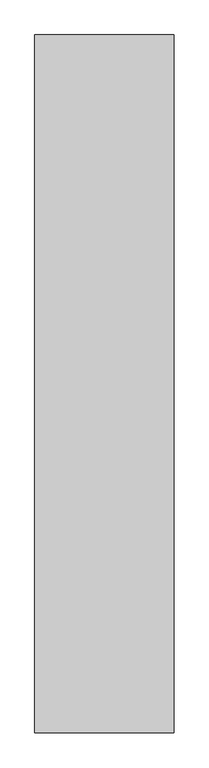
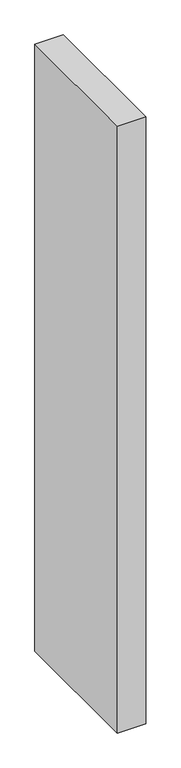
"""IFC4 building model written with IfcOpenShell, lengths in millimetres: column geometry, Бетон-Прямоугольного сечения-Колонна : 200 x 1000 мм."""

from ifc_helpers import new_model, si_unit, origin, origin_with_axes, place, context, project, spatial, polyline, outline, extrude, source, transform, mapped, element, save


def column_331ee7b7(model_context):
    return source(origin(), model_context, "Body", "SweptSolid", [
        extrude(outline(polyline([(100.0, 500.0), (100.0, -500.0), (-100.0, -500.0), (-100.0, 500.0), (100.0, 500.0)])), origin_with_axes(), (0.0, 0.0, 1.0), 4500.0),
    ])


if __name__ == "__main__":
    model = new_model("IFC4")
    model_context = context("Model", 3, world=origin())
    ifc_project = project(units=[si_unit("LENGTHUNIT", "METRE", prefix="MILLI")], contexts=[model_context])
    site = spatial("IfcSite", under=ifc_project)
    building = spatial("IfcBuilding", under=site)
    placement = place(None, origin())
    column_shape = column_331ee7b7(model_context)
    element("IfcColumn", 1, ObjectType="Бетон-Прямоугольного сечения-Колонна : 200 x 1000 мм", at=placement, inside=building, context=model_context, shape_type="MappedRepresentation", body=[
        mapped(column_shape, transform((0.0, 0.0, 0.0), x_axis=(1.0, 0.0, 0.0), y_axis=(0.0, 1.0, 0.0), z_axis=(0.0, 0.0, 1.0))),
    ])
    save(model, "model.ifc")
